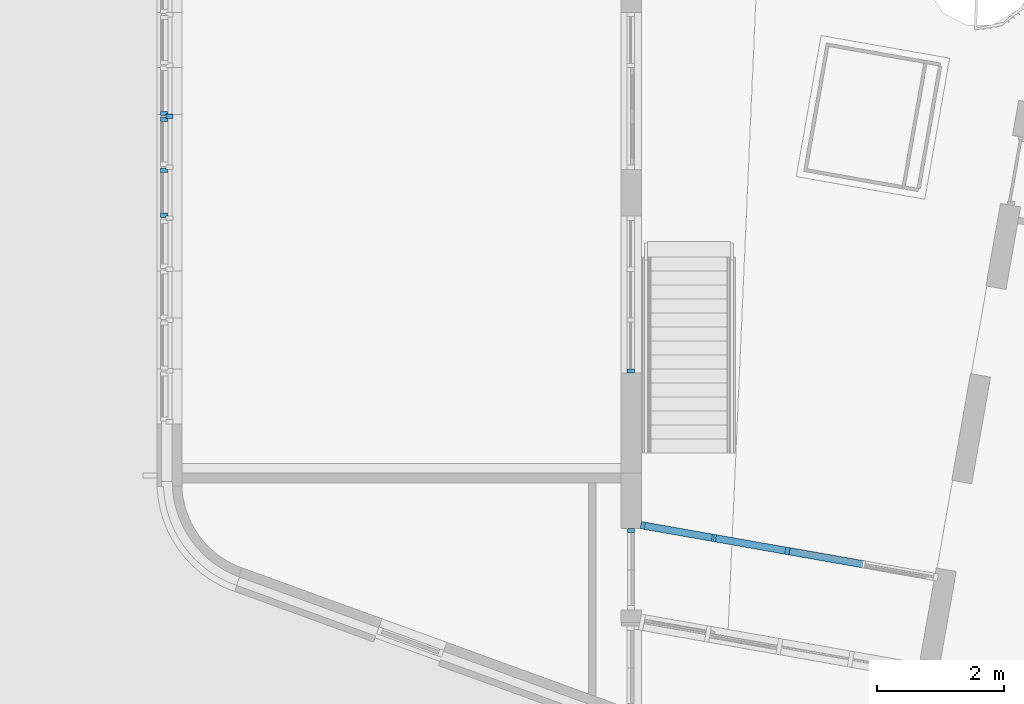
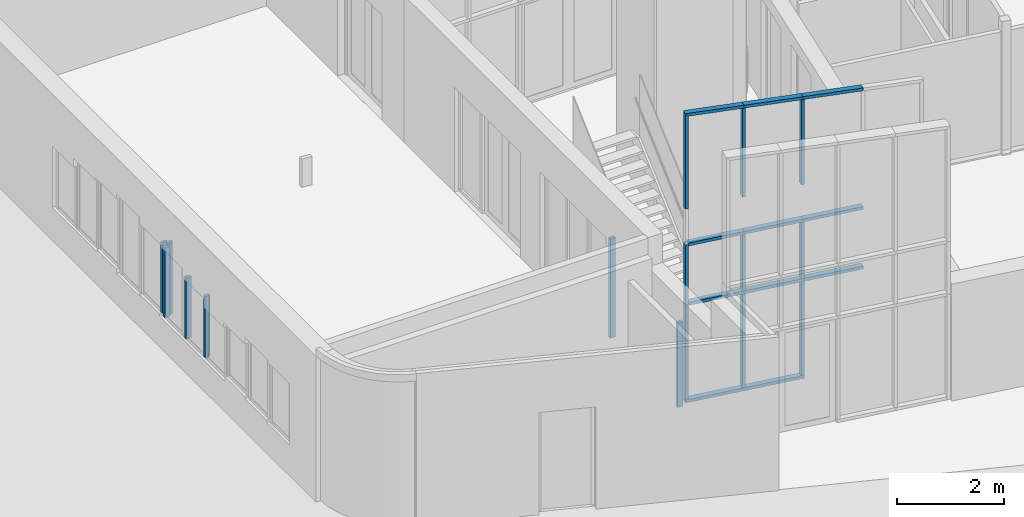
# One storey, part 3 of 21: 28 members, 8 elements without a shape of their own.
"""IFC2X3 building model written with IfcOpenShell, lengths in millimetres."""

from ifc_helpers import new_model, entity, si_unit, converted_unit, derived_unit, direction, frame, frame_2d, origin, origin_2d_with_axis, place, context, subcontext, project, spatial, polyline, rectangle, outline, extrude, clip, halfspace, bounded_halfspace, source, transform, mapped, material, type_object, type_shapes, element, aggregate, save


model = new_model("IFC2X3")

# Units and contexts
model_context = context("Model", 3, precision=0.01, world=origin(), true_north=direction((6.12303176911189e-17, 1.0)))
body_context = subcontext(model_context, "Body", "Model", "MODEL_VIEW")
ifc_project = project(units=[si_unit("LENGTHUNIT", "METRE", prefix="MILLI"), si_unit("AREAUNIT", "SQUARE_METRE"), si_unit("VOLUMEUNIT", "CUBIC_METRE"), converted_unit("PLANEANGLEUNIT", "DEGREE", entity("IfcRatioMeasure", 0.0174532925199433), si_unit("PLANEANGLEUNIT", "RADIAN"), dimensions=[0, 0, 0, 0, 0, 0, 0]), si_unit("MASSUNIT", "GRAM", prefix="KILO"), derived_unit("MASSDENSITYUNIT", [(si_unit("MASSUNIT", "GRAM", prefix="KILO"), 1), (si_unit("LENGTHUNIT", "METRE"), -3)]), derived_unit("MOMENTOFINERTIAUNIT", [(si_unit("LENGTHUNIT", "METRE"), 4)]), si_unit("TIMEUNIT", "SECOND"), si_unit("FREQUENCYUNIT", "HERTZ"), si_unit("THERMODYNAMICTEMPERATUREUNIT", "DEGREE_CELSIUS"), derived_unit("THERMALTRANSMITTANCEUNIT", [(si_unit("MASSUNIT", "GRAM", prefix="KILO"), 1), (si_unit("THERMODYNAMICTEMPERATUREUNIT", "KELVIN"), -1), (si_unit("TIMEUNIT", "SECOND"), -3)]), derived_unit("VOLUMETRICFLOWRATEUNIT", [(si_unit("LENGTHUNIT", "METRE"), 3), (si_unit("TIMEUNIT", "SECOND"), -1)]), si_unit("ELECTRICCURRENTUNIT", "AMPERE"), si_unit("ELECTRICVOLTAGEUNIT", "VOLT"), si_unit("POWERUNIT", "WATT"), si_unit("FORCEUNIT", "NEWTON", prefix="KILO"), si_unit("ILLUMINANCEUNIT", "LUX"), si_unit("LUMINOUSFLUXUNIT", "LUMEN"), si_unit("LUMINOUSINTENSITYUNIT", "CANDELA"), derived_unit("USERDEFINED", [(si_unit("MASSUNIT", "GRAM", prefix="KILO"), -1), (si_unit("LENGTHUNIT", "METRE"), -2), (si_unit("TIMEUNIT", "SECOND"), 3), (si_unit("LUMINOUSFLUXUNIT", "LUMEN"), 1)]), derived_unit("LINEARVELOCITYUNIT", [(si_unit("LENGTHUNIT", "METRE"), 1), (si_unit("TIMEUNIT", "SECOND"), -1)]), si_unit("PRESSUREUNIT", "PASCAL"), derived_unit("USERDEFINED", [(si_unit("LENGTHUNIT", "METRE"), -2), (si_unit("MASSUNIT", "GRAM", prefix="KILO"), 1), (si_unit("TIMEUNIT", "SECOND"), -2)]), derived_unit("LINEARFORCEUNIT", [(si_unit("MASSUNIT", "GRAM", prefix="KILO"), 1), (si_unit("LENGTHUNIT", "METRE"), 1), (si_unit("TIMEUNIT", "SECOND"), -2), (si_unit("LENGTHUNIT", "METRE"), -1)]), derived_unit("PLANARFORCEUNIT", [(si_unit("MASSUNIT", "GRAM", prefix="KILO"), 1), (si_unit("LENGTHUNIT", "METRE"), 1), (si_unit("TIMEUNIT", "SECOND"), -2), (si_unit("LENGTHUNIT", "METRE"), -2)])], contexts=[model_context])

# Site, building, storey
site_placement = place(None, origin())
site = spatial("IfcSite", under=ifc_project, at=site_placement, Name="<Kadaster Gemeente>;<Kadaster nummer>;<Kadaster sectie>", CompositionType="ELEMENT")
building_placement = place(site_placement, origin())
building = spatial("IfcBuilding", under=site, at=building_placement, Name="JRCZ Middelburg", CompositionType="ELEMENT")
storey_placement = place(building_placement, origin())
storey = spatial("IfcBuildingStorey", under=building, at=storey_placement, Name="00 begane grond", CompositionType="ELEMENT", Elevation=0.0)

# Curtain wall, members
curtain_wall_type_1 = type_object("IfcCurtainWallType", Name="Curtain Wall:vliesgevel B", PredefinedType="NOTDEFINED")
curtain_wall_1_placement = place(storey_placement, origin())
curtain_wall_1 = element("IfcCurtainWall", 1, at=curtain_wall_1_placement, inside=storey, type_object=curtain_wall_type_1, Name="Curtain Wall:vliesgevel B", ObjectType="Curtain Wall:vliesgevel B")
ifc_material_1 = material(Name="RBM_i2_binnenkozijn")
member_type_1 = type_object("IfcMemberType", Name="Rectangular Mullion:32_CWM_067x114", PredefinedType="MULLION", material=ifc_material_1)
shared_shape_1 = source(origin(), body_context, "Body", "Clipping", [
    clip(extrude(rectangle(XDim=113.999999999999, YDim=67.0, at=origin_2d_with_axis()), frame((-33.5, 0.0, -2177.66666666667), z_axis=(0.0, 0.0, 1.0), x_axis=(0.0, -1.0, 0.0)), (0.0, 0.0, 1.0), 2177.66666666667), halfspace(frame((0.0, -304.799999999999, 0.0), z_axis=(-0.73233970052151, 0.0, 0.680939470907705), x_axis=(-0.680939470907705, 0.0, -0.73233970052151)), False)),
])
type_shapes(member_type_1, [shared_shape_1])
member_1_placement = place(storey_placement, frame((17362.2500000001, 9178.37735087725, 6600.0), z_axis=(0.0, 0.0, 1.0), x_axis=(-0.984807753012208, 0.173648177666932, 0.0)))
member_1 = element("IfcMember", 2, at=member_1_placement, type_object=member_type_1, material=ifc_material_1, Name="Rectangular Mullion:32_CWM_067x114", ObjectType="Rectangular Mullion:32_CWM_067x114", context=body_context, shape_type="MappedRepresentation", body=[
    mapped(shared_shape_1, transform((0.0, 0.0, 0.0), scale=1.0)),
])
member_type_2 = type_object("IfcMemberType", Name="Rectangular Mullion:32_CWM_067x114", PredefinedType="MULLION", material=ifc_material_1)
shared_shape_2 = source(origin(), body_context, "Body", "SweptSolid", [
    extrude(rectangle(XDim=113.999999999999, YDim=67.0, at=origin_2d_with_axis()), frame((0.0, 0.0, -2144.16666666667), z_axis=(0.0, 0.0, 1.0), x_axis=(0.0, -1.0, 0.0)), (0.0, 0.0, 1.0), 2144.16666666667),
])
type_shapes(member_type_2, [shared_shape_2])
member_2_placement = place(storey_placement, frame((19664.9206469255, 8772.35438813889, 67.0), z_axis=(0.0, 0.0, -1.0), x_axis=(0.984807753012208, -0.173648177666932, 0.0)))
member_2 = element("IfcMember", 3, at=member_2_placement, type_object=member_type_2, material=ifc_material_1, Name="Rectangular Mullion:32_CWM_067x114", ObjectType="Rectangular Mullion:32_CWM_067x114", context=body_context, shape_type="MappedRepresentation", body=[
    mapped(shared_shape_2, transform((0.0, 0.0, 0.0), scale=1.0)),
])
member_3_placement = place(storey_placement, frame((18510.4603234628, 8975.91689132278, 67.0), z_axis=(0.0, 0.0, -1.0), x_axis=(0.984807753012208, -0.173648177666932, 0.0)))
member_3 = element("IfcMember", 4, at=member_3_placement, type_object=member_type_2, material=ifc_material_1, Name="Rectangular Mullion:32_CWM_067x114", ObjectType="Rectangular Mullion:32_CWM_067x114", context=body_context, shape_type="MappedRepresentation", body=[
    mapped(shared_shape_2, transform((0.0, 0.0, 0.0), scale=1.0)),
])
member_type_3 = type_object("IfcMemberType", Name="Rectangular Mullion:32_CWM_067x114", PredefinedType="MULLION", material=ifc_material_1)
shared_shape_3 = source(origin(), body_context, "Body", "SweptSolid", [
    extrude(rectangle(XDim=113.999999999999, YDim=67.0, at=origin_2d_with_axis()), frame((-33.5, 0.0, -1165.92331848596), z_axis=(0.0, 0.0, 1.0), x_axis=(0.0, -1.0, 0.0)), (0.0, 0.0, 1.0), 1165.92331848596),
])
type_shapes(member_type_3, [shared_shape_3])
member_4_placement = place(storey_placement, frame((17362.2500000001, 9178.37735087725, 0.0), z_axis=(-0.984807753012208, 0.173648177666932, 0.0), x_axis=(0.0, 0.0, -1.0)))
member_4 = element("IfcMember", 5, at=member_4_placement, type_object=member_type_3, material=ifc_material_1, Name="Rectangular Mullion:32_CWM_067x114", ObjectType="Rectangular Mullion:32_CWM_067x114", context=body_context, shape_type="MappedRepresentation", body=[
    mapped(shared_shape_3, transform((0.0, 0.0, 0.0), scale=1.0)),
])
member_type_4 = type_object("IfcMemberType", Name="Rectangular Mullion:32_CWM_067x114", PredefinedType="MULLION", material=ifc_material_1)
shared_shape_4 = source(origin(), body_context, "Body", "SweptSolid", [
    extrude(rectangle(XDim=113.999999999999, YDim=67.0, at=origin_2d_with_axis()), frame((-33.5, 0.0, -2177.66666666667), z_axis=(0.0, 0.0, 1.0), x_axis=(0.0, -1.0, 0.0)), (0.0, 0.0, 1.0), 2177.66666666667),
])
type_shapes(member_type_4, [shared_shape_4])
member_5_placement = place(storey_placement, frame((17362.2500000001, 9178.37735087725, 2244.66666666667), z_axis=(0.0, 0.0, 1.0), x_axis=(-0.984807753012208, 0.173648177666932, 0.0)))
member_5 = element("IfcMember", 6, at=member_5_placement, type_object=member_type_4, material=ifc_material_1, Name="Rectangular Mullion:32_CWM_067x114", ObjectType="Rectangular Mullion:32_CWM_067x114", context=body_context, shape_type="MappedRepresentation", body=[
    mapped(shared_shape_4, transform((0.0, 0.0, 0.0), scale=1.0)),
])
member_type_5 = type_object("IfcMemberType", Name="Rectangular Mullion:32_CWM_067x114", PredefinedType="MULLION", material=ifc_material_1)
shared_shape_5 = source(origin(), body_context, "Body", "SweptSolid", [
    extrude(rectangle(XDim=113.999999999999, YDim=67.0, at=origin_2d_with_axis()), frame((0.0, 0.0, -1290.66666666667), z_axis=(0.0, 0.0, 1.0), x_axis=(0.0, -1.0, 0.0)), (0.0, 0.0, 1.0), 1290.66666666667),
])
type_shapes(member_type_5, [shared_shape_5])
member_6_placement = place(storey_placement, frame((19664.9206469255, 8772.35438813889, 2278.16666666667), z_axis=(0.0, 0.0, -1.0), x_axis=(0.984807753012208, -0.173648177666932, 0.0)))
member_6 = element("IfcMember", 7, at=member_6_placement, type_object=member_type_5, material=ifc_material_1, Name="Rectangular Mullion:32_CWM_067x114", ObjectType="Rectangular Mullion:32_CWM_067x114", context=body_context, shape_type="MappedRepresentation", body=[
    mapped(shared_shape_5, transform((0.0, 0.0, 0.0), scale=1.0)),
])
member_7_placement = place(storey_placement, frame((18510.4603234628, 8975.91689132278, 2278.16666666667), z_axis=(0.0, 0.0, -1.0), x_axis=(0.984807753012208, -0.173648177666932, 0.0)))
member_7 = element("IfcMember", 8, at=member_7_placement, type_object=member_type_5, material=ifc_material_1, Name="Rectangular Mullion:32_CWM_067x114", ObjectType="Rectangular Mullion:32_CWM_067x114", context=body_context, shape_type="MappedRepresentation", body=[
    mapped(shared_shape_5, transform((0.0, 0.0, 0.0), scale=1.0)),
])
member_type_6 = type_object("IfcMemberType", Name="Rectangular Mullion:32_CWM_067x114", PredefinedType="MULLION", material=ifc_material_1)
shared_shape_6 = source(origin(), body_context, "Body", "Clipping", [
    clip(clip(extrude(rectangle(XDim=113.999999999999, YDim=67.0, at=origin_2d_with_axis()), frame((0.0, 0.0, -1942.6261666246), z_axis=(0.0, 0.0, 1.0), x_axis=(0.0, -1.0, 0.0)), (0.0, 0.0, 1.0), 1942.6261666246), bounded_halfspace(frame((-4.86707255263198, 57.0, -1940.54067866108), z_axis=(0.0726428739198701, 0.0, -0.997358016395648), x_axis=(-0.997358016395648, 0.0, -0.0726428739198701)), False, frame((0.0, 0.0, -1942.6261666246), z_axis=(0.0, 0.0, 1.0), x_axis=(0.0, -1.0, 0.0)), polyline([(57.0, -4.867072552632), (57.0, -33.5), (-57.0, -33.5), (-57.0, -4.86707255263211), (57.0, -4.867072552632)]))), bounded_halfspace(frame((1197.51838538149, 57.0, -1852.96456879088), z_axis=(0.0726428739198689, 0.0, -0.997358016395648), x_axis=(-0.997358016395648, 0.0, -0.0726428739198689)), False, frame((0.0, 0.0, -1942.6261666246), z_axis=(0.0, 0.0, 1.0), x_axis=(0.0, -1.0, 0.0)), polyline([(-57.0, 33.5), (57.0, 33.5), (57.0, -4.86707255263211), (-57.0, -4.86707255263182), (-57.0, 33.5)]))),
])
type_shapes(member_type_6, [shared_shape_6])
member_8_placement = place(storey_placement, frame((19664.9206469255, 8772.35438813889, 4422.33333333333), z_axis=(0.0, 0.0, -1.0), x_axis=(0.984807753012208, -0.173648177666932, 0.0)))
member_8 = element("IfcMember", 9, at=member_8_placement, type_object=member_type_6, material=ifc_material_1, Name="Rectangular Mullion:32_CWM_067x114", ObjectType="Rectangular Mullion:32_CWM_067x114", context=body_context, shape_type="MappedRepresentation", body=[
    mapped(shared_shape_6, transform((0.0, 0.0, 0.0), scale=1.0)),
])
member_type_7 = type_object("IfcMemberType", Name="Rectangular Mullion:32_CWM_067x114", PredefinedType="MULLION", material=ifc_material_1)
shared_shape_7 = source(origin(), body_context, "Body", "SweptSolid", [
    extrude(rectangle(XDim=113.999999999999, YDim=67.0, at=origin_2d_with_axis()), frame((0.0, 0.0, -1098.92331848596), z_axis=(0.0, 0.0, 1.0), x_axis=(0.0, -1.0, 0.0)), (0.0, 0.0, 1.0), 1098.92331848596),
])
type_shapes(member_type_7, [shared_shape_7])
member_9_placement = place(storey_placement, frame((18510.4603234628, 8975.91689132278, 2244.66666666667), z_axis=(0.984807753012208, -0.173648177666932, 0.0), x_axis=(0.0, 0.0, 1.0)))
member_9 = element("IfcMember", 10, at=member_9_placement, type_object=member_type_7, material=ifc_material_1, Name="Rectangular Mullion:32_CWM_067x114", ObjectType="Rectangular Mullion:32_CWM_067x114", context=body_context, shape_type="MappedRepresentation", body=[
    mapped(shared_shape_7, transform((0.0, 0.0, 0.0), scale=1.0)),
])
member_10_placement = place(storey_placement, frame((18510.4603234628, 8975.91689132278, 3602.33333333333), z_axis=(0.984807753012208, -0.173648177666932, 0.0), x_axis=(0.0, 0.0, 1.0)))
member_10 = element("IfcMember", 11, at=member_10_placement, type_object=member_type_7, material=ifc_material_1, Name="Rectangular Mullion:32_CWM_067x114", ObjectType="Rectangular Mullion:32_CWM_067x114", context=body_context, shape_type="MappedRepresentation", body=[
    mapped(shared_shape_7, transform((0.0, 0.0, 0.0), scale=1.0)),
])
member_type_8 = type_object("IfcMemberType", Name="Rectangular Mullion:32_CWM_067x114", PredefinedType="MULLION", material=ifc_material_1)
shared_shape_8 = source(origin(), body_context, "Body", "SweptSolid", [
    extrude(rectangle(XDim=113.999999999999, YDim=67.0, at=origin_2d_with_axis()), frame((0.0, 0.0, -1202.38545793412), z_axis=(0.0, 0.0, 1.0), x_axis=(0.0, -1.0, 0.0)), (0.0, 0.0, 1.0), 1202.38545793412),
])
type_shapes(member_type_8, [shared_shape_8])
member_11_placement = place(storey_placement, frame((20849.0391680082, 8563.56234451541, 2244.66666666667), z_axis=(0.984807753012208, -0.173648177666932, 0.0), x_axis=(0.0, 0.0, 1.0)))
member_11 = element("IfcMember", 12, at=member_11_placement, type_object=member_type_8, material=ifc_material_1, Name="Rectangular Mullion:32_CWM_067x114", ObjectType="Rectangular Mullion:32_CWM_067x114", context=body_context, shape_type="MappedRepresentation", body=[
    mapped(shared_shape_8, transform((0.0, 0.0, 0.0), scale=1.0)),
])
member_12_placement = place(storey_placement, frame((20849.0391680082, 8563.56234451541, 3602.33333333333), z_axis=(0.984807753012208, -0.173648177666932, 0.0), x_axis=(0.0, 0.0, 1.0)))
member_12 = element("IfcMember", 13, at=member_12_placement, type_object=member_type_8, material=ifc_material_1, Name="Rectangular Mullion:32_CWM_067x114", ObjectType="Rectangular Mullion:32_CWM_067x114", context=body_context, shape_type="MappedRepresentation", body=[
    mapped(shared_shape_8, transform((0.0, 0.0, 0.0), scale=1.0)),
])
member_type_9 = type_object("IfcMemberType", Name="Rectangular Mullion:32_CWM_067x114", PredefinedType="MULLION", material=ifc_material_1)
shared_shape_9 = source(origin(), body_context, "Body", "SweptSolid", [
    extrude(rectangle(XDim=113.999999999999, YDim=67.0, at=origin_2d_with_axis()), frame((-33.5, 0.0, -1175.37505643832), z_axis=(0.0, 0.0, 1.0), x_axis=(0.0, -1.0, 0.0)), (0.0, 0.0, 1.0), 1175.37505643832),
])
type_shapes(member_type_9, [shared_shape_9])
member_13_placement = place(storey_placement, frame((19664.9206469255, 8772.35438813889, 6429.69699909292), z_axis=(0.982205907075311, -0.173189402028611, -0.0726428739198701), x_axis=(0.0715392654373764, -0.0126143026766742, 0.997358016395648)))
member_13 = element("IfcMember", 14, at=member_13_placement, type_object=member_type_9, material=ifc_material_1, Name="Rectangular Mullion:32_CWM_067x114", ObjectType="Rectangular Mullion:32_CWM_067x114", context=body_context, shape_type="MappedRepresentation", body=[
    mapped(shared_shape_9, transform((0.0, 0.0, 0.0), scale=1.0)),
])
member_type_10 = type_object("IfcMemberType", Name="Rectangular Mullion:32_CWM_067x114", PredefinedType="MULLION", material=ifc_material_1)
shared_shape_10 = source(origin(), body_context, "Body", "SweptSolid", [
    extrude(rectangle(XDim=113.999999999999, YDim=67.0, at=origin_2d_with_axis()), frame((-33.5, 0.0, -1357.66666666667), z_axis=(0.0, 0.0, 1.0), x_axis=(0.0, -1.0, 0.0)), (0.0, 0.0, 1.0), 1357.66666666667),
])
type_shapes(member_type_10, [shared_shape_10])
member_14_placement = place(storey_placement, frame((17362.2500000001, 9178.37735087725, 3602.33333333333), z_axis=(0.0, 0.0, 1.0), x_axis=(-0.984807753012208, 0.173648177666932, 0.0)))
member_14 = element("IfcMember", 15, at=member_14_placement, type_object=member_type_10, material=ifc_material_1, Name="Rectangular Mullion:32_CWM_067x114", ObjectType="Rectangular Mullion:32_CWM_067x114", context=body_context, shape_type="MappedRepresentation", body=[
    mapped(shared_shape_10, transform((0.0, 0.0, 0.0), scale=1.0)),
])
member_type_11 = type_object("IfcMemberType", Name="Rectangular Mullion:32_CWM_067x114", PredefinedType="MULLION", material=ifc_material_1)
shared_shape_11 = source(origin(), body_context, "Body", "Clipping", [
    clip(extrude(rectangle(XDim=113.999999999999, YDim=67.0, at=origin_2d_with_axis()), frame((-33.5, 0.0, -1169.01182857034), z_axis=(0.0, 0.0, 1.0), x_axis=(0.0, -1.0, 0.0)), (0.0, 0.0, 1.0), 1169.01182857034), halfspace(frame((0.0, -304.799999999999, -1169.01182857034), z_axis=(-0.73233970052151, 0.0, -0.680939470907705), x_axis=(-0.680939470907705, 0.0, 0.73233970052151)), False)),
])
type_shapes(member_type_11, [shared_shape_11])
member_15_placement = place(storey_placement, frame((18510.4603234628, 8975.91689132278, 6515.07962112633), z_axis=(0.982205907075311, -0.173189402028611, -0.0726428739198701), x_axis=(0.0715392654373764, -0.0126143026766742, 0.997358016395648)))
member_15 = element("IfcMember", 16, at=member_15_placement, type_object=member_type_11, material=ifc_material_1, Name="Rectangular Mullion:32_CWM_067x114", ObjectType="Rectangular Mullion:32_CWM_067x114", context=body_context, shape_type="MappedRepresentation", body=[
    mapped(shared_shape_11, transform((0.0, 0.0, 0.0), scale=1.0)),
])
member_type_12 = type_object("IfcMemberType", Name="Rectangular Mullion:32_CWM_067x114", PredefinedType="MULLION", material=ifc_material_1)
shared_shape_12 = source(origin(), body_context, "Body", "SweptSolid", [
    extrude(rectangle(XDim=113.999999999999, YDim=67.0, at=origin_2d_with_axis()), frame((-33.5, 0.0, -1205.76973481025), z_axis=(0.0, 0.0, 1.0), x_axis=(0.0, -1.0, 0.0)), (0.0, 0.0, 1.0), 1205.76973481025),
])
type_shapes(member_type_12, [shared_shape_12])
member_16_placement = place(storey_placement, frame((18510.4603234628, 8975.91689132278, 0.0), z_axis=(-0.984807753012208, 0.173648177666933, 0.0), x_axis=(0.0, 0.0, -1.0)))
member_16 = element("IfcMember", 17, at=member_16_placement, type_object=member_type_12, material=ifc_material_1, Name="Rectangular Mullion:32_CWM_067x114", ObjectType="Rectangular Mullion:32_CWM_067x114", context=body_context, shape_type="MappedRepresentation", body=[
    mapped(shared_shape_12, transform((0.0, 0.0, 0.0), scale=1.0)),
])
member_type_13 = type_object("IfcMemberType", Name="Rectangular Mullion:32_CWM_067x114", PredefinedType="MULLION", material=ifc_material_1)
shared_shape_13 = source(origin(), body_context, "Body", "SweptSolid", [
    extrude(rectangle(XDim=113.999999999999, YDim=67.0, at=origin_2d_with_axis()), frame((0.0, 0.0, -1172.26973481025), z_axis=(0.0, 0.0, 1.0), x_axis=(0.0, -1.0, 0.0)), (0.0, 0.0, 1.0), 1172.26973481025),
])
type_shapes(member_type_13, [shared_shape_13])
member_17_placement = place(storey_placement, frame((19664.9206469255, 8772.35438813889, 2244.66666666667), z_axis=(0.984807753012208, -0.173648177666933, 0.0), x_axis=(0.0, 0.0, 1.0)))
member_17 = element("IfcMember", 18, at=member_17_placement, type_object=member_type_13, material=ifc_material_1, Name="Rectangular Mullion:32_CWM_067x114", ObjectType="Rectangular Mullion:32_CWM_067x114", context=body_context, shape_type="MappedRepresentation", body=[
    mapped(shared_shape_13, transform((0.0, 0.0, 0.0), scale=1.0)),
])
member_18_placement = place(storey_placement, frame((19664.9206469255, 8772.35438813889, 3602.33333333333), z_axis=(0.984807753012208, -0.173648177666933, 0.0), x_axis=(0.0, 0.0, 1.0)))
member_18 = element("IfcMember", 19, at=member_18_placement, type_object=member_type_13, material=ifc_material_1, Name="Rectangular Mullion:32_CWM_067x114", ObjectType="Rectangular Mullion:32_CWM_067x114", context=body_context, shape_type="MappedRepresentation", body=[
    mapped(shared_shape_13, transform((0.0, 0.0, 0.0), scale=1.0)),
])
member_type_14 = type_object("IfcMemberType", Name="Rectangular Mullion:32_CWM_067x114", PredefinedType="MULLION", material=ifc_material_1)
shared_shape_14 = source(origin(), body_context, "Body", "Clipping", [
    clip(clip(extrude(rectangle(XDim=113.999999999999, YDim=67.0, at=origin_2d_with_axis()), frame((0.0, 0.0, -2028.00878865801), z_axis=(0.0, 0.0, 1.0), x_axis=(0.0, -1.0, 0.0)), (0.0, 0.0, 1.0), 2028.00878865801), bounded_halfspace(frame((-4.86707255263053, 57.0, -2025.92330069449), z_axis=(0.0726428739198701, 0.0, -0.997358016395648), x_axis=(-0.997358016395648, 0.0, -0.0726428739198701)), False, frame((0.0, 0.0, -2028.00878865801), z_axis=(0.0, 0.0, 1.0), x_axis=(0.0, -1.0, 0.0)), polyline([(57.0, -4.86707255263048), (57.0, -33.5), (-57.0, -33.5), (-57.0, -4.86707255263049), (57.0, -4.86707255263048)]))), bounded_halfspace(frame((1167.40266225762, 57.0, -1940.54067866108), z_axis=(0.0726428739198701, 0.0, -0.997358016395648), x_axis=(-0.997358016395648, 0.0, -0.0726428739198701)), False, frame((0.0, 0.0, -2028.00878865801), z_axis=(0.0, 0.0, 1.0), x_axis=(0.0, -1.0, 0.0)), polyline([(-57.0, 33.5), (57.0, 33.5), (57.0, -4.86707255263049), (-57.0, -4.86707255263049), (-57.0, 33.5)]))),
])
type_shapes(member_type_14, [shared_shape_14])
member_19_placement = place(storey_placement, frame((18510.4603234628, 8975.91689132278, 4422.33333333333), z_axis=(0.0, 0.0, -1.0), x_axis=(0.984807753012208, -0.173648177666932, 0.0)))
member_19 = element("IfcMember", 20, at=member_19_placement, type_object=member_type_14, material=ifc_material_1, Name="Rectangular Mullion:32_CWM_067x114", ObjectType="Rectangular Mullion:32_CWM_067x114", context=body_context, shape_type="MappedRepresentation", body=[
    mapped(shared_shape_14, transform((0.0, 0.0, 0.0), scale=1.0)),
])
member_type_15 = type_object("IfcMemberType", Name="Rectangular Mullion:32_CWM_067x114", PredefinedType="MULLION", material=ifc_material_1)
shared_shape_15 = source(origin(), body_context, "Body", "SweptSolid", [
    extrude(rectangle(XDim=113.999999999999, YDim=67.0, at=origin_2d_with_axis()), frame((-33.5, 0.0, -1205.5620489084), z_axis=(0.0, 0.0, 1.0), x_axis=(0.0, -1.0, 0.0)), (0.0, 0.0, 1.0), 1205.5620489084),
])
type_shapes(member_type_15, [shared_shape_15])
member_20_placement = place(storey_placement, frame((20849.0391680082, 8563.56234451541, 6342.12088922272), z_axis=(0.982205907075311, -0.17318940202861, -0.0726428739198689), x_axis=(0.0715392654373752, -0.012614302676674, 0.997358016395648)))
member_20 = element("IfcMember", 21, at=member_20_placement, type_object=member_type_15, material=ifc_material_1, Name="Rectangular Mullion:32_CWM_067x114", ObjectType="Rectangular Mullion:32_CWM_067x114", context=body_context, shape_type="MappedRepresentation", body=[
    mapped(shared_shape_15, transform((0.0, 0.0, 0.0), scale=1.0)),
])
aggregate(curtain_wall_1, [member_1, member_2, member_4, member_5, member_6, member_8, member_9, member_11, member_13, member_14, member_10, member_12, member_15, member_16, member_17, member_18, member_3, member_7, member_19, member_20])

# Curtain wall, member
curtain_wall_type_2 = type_object("IfcCurtainWallType", Name="Curtain Wall:NLRS_32_CW_067x114", PredefinedType="NOTDEFINED")
curtain_wall_2_placement = place(storey_placement, origin())
curtain_wall_2 = element("IfcCurtainWall", 22, at=curtain_wall_2_placement, inside=storey, type_object=curtain_wall_type_2, Name="Curtain Wall:NLRS_32_CW_067x114", ObjectType="Curtain Wall:NLRS_32_CW_067x114")
member_type_16 = type_object("IfcMemberType", Name="Rectangular Mullion:32_CWM_067x114", PredefinedType="MULLION", material=ifc_material_1)
shared_shape_16 = source(origin(), body_context, "Body", "SweptSolid", [
    extrude(rectangle(XDim=113.999999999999, YDim=67.0, at=origin_2d_with_axis()), frame((-33.5, 0.0, -2266.0), z_axis=(0.0, 0.0, 1.0), x_axis=(0.0, -1.0, 0.0)), (0.0, 0.0, 1.0), 2266.0),
])
type_shapes(member_type_16, [shared_shape_16])
member_21_placement = place(storey_placement, frame((17203.0, 11566.4999996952, 2333.0), z_axis=(0.0, 0.0, 1.0), x_axis=(0.0, -1.0, 0.0)))
member_21 = element("IfcMember", 23, at=member_21_placement, type_object=member_type_16, material=ifc_material_1, Name="Rectangular Mullion:32_CWM_067x114", ObjectType="Rectangular Mullion:32_CWM_067x114", context=body_context, shape_type="MappedRepresentation", body=[
    mapped(shared_shape_16, transform((0.0, 0.0, 0.0), scale=1.0)),
])
aggregate(curtain_wall_2, [member_21])

curtain_wall_3_placement = place(storey_placement, origin())
curtain_wall_3 = element("IfcCurtainWall", 24, at=curtain_wall_3_placement, inside=storey, type_object=curtain_wall_type_2, Name="Curtain Wall:NLRS_32_CW_067x114", ObjectType="Curtain Wall:NLRS_32_CW_067x114")
member_type_17 = type_object("IfcMemberType", Name="Rectangular Mullion:32_CWM_067x114", PredefinedType="MULLION", material=ifc_material_1)
shared_shape_17 = source(origin(), body_context, "Body", "SweptSolid", [
    extrude(rectangle(XDim=113.999999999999, YDim=67.0, at=origin_2d_with_axis()), frame((-33.5, 0.0, -1933.0), z_axis=(0.0, 0.0, 1.0), x_axis=(0.0, -1.0, 0.0)), (0.0, 0.0, 1.0), 1933.0),
])
type_shapes(member_type_17, [shared_shape_17])
member_22_placement = place(storey_placement, frame((17209.2500000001, 9128.74078602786, 0.0), z_axis=(0.0, 0.0, -1.0), x_axis=(0.0, 1.0, 0.0)))
member_22 = element("IfcMember", 25, at=member_22_placement, type_object=member_type_17, material=ifc_material_1, Name="Rectangular Mullion:32_CWM_067x114", ObjectType="Rectangular Mullion:32_CWM_067x114", context=body_context, shape_type="MappedRepresentation", body=[
    mapped(shared_shape_17, transform((0.0, 0.0, 0.0), scale=1.0)),
])
aggregate(curtain_wall_3, [member_22])

curtain_wall_type_3 = type_object("IfcCurtainWallType", Name="Curtain Wall:NLRS_31_CW_hsb rek 63x196mm h.o.h. 800mm", PredefinedType="NOTDEFINED")
curtain_wall_4_placement = place(storey_placement, origin())
curtain_wall_4 = element("IfcCurtainWall", 26, at=curtain_wall_4_placement, inside=storey, type_object=curtain_wall_type_3, Name="Curtain Wall:NLRS_31_CW_hsb rek 63x196mm h.o.h. 800mm", ObjectType="Curtain Wall:NLRS_31_CW_hsb rek 63x196mm h.o.h. 800mm")
member_type_18 = type_object("IfcMemberType", Name="Rectangular Mullion:32_CWM_067x114", PredefinedType="MULLION", material=ifc_material_1)
shared_shape_18 = source(origin(), body_context, "Body", "SweptSolid", [
    extrude(rectangle(XDim=66.9999999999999, YDim=114.0, at=frame_2d((1.08002495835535e-12, 0.0), x_axis=(1.0, 0.0))), frame((9956.0, 15598.0, 700.0), z_axis=(0.0, 0.0, 1.0), x_axis=(0.0, -1.0, 0.0)), (0.0, 0.0, 1.0), 1600.0),
])
type_shapes(member_type_18, [shared_shape_18])
member_23_placement = place(storey_placement, origin())
member_23 = element("IfcMember", 27, at=member_23_placement, type_object=member_type_18, material=ifc_material_1, Name="Rectangular Mullion:32_CWM_067x114", ObjectType="Rectangular Mullion:32_CWM_067x114", context=body_context, shape_type="MappedRepresentation", body=[
    mapped(shared_shape_18, transform((0.0, 0.0, 0.0), scale=1.0)),
])
aggregate(curtain_wall_4, [member_23])

curtain_wall_type_4 = type_object("IfcCurtainWallType", Name="Curtain Wall:NLRS_31_CW_Ontwerpkozijn 067x114 2", PredefinedType="NOTDEFINED")
curtain_wall_5_placement = place(storey_placement, origin())
curtain_wall_5 = element("IfcCurtainWall", 28, at=curtain_wall_5_placement, inside=storey, type_object=curtain_wall_type_4, Name="Curtain Wall:NLRS_31_CW_Ontwerpkozijn 067x114 2", ObjectType="Curtain Wall:NLRS_31_CW_Ontwerpkozijn 067x114 2")
ifc_material_2 = material(Name="RBM_a_kozijn")
member_type_19 = type_object("IfcMemberType", Name="Rectangular Mullion:31_CWM_067x114", PredefinedType="MULLION", material=ifc_material_2)
shared_shape_19 = source(origin(), body_context, "Body", "SweptSolid", [
    extrude(outline(polyline([(-30.0, -65.3333333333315), (37.0, -65.3333333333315), (37.0, 48.6666666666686), (-7.0, 48.6666666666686), (-7.0, 16.6666666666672), (-30.0, 16.6666666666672), (-30.0, -65.3333333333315)])), frame((9882.33333333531, 15557.4999999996, 700.0), z_axis=(0.0, 0.0, 1.0), x_axis=(0.0, -1.0, 0.0)), (0.0, 0.0, 1.0), 1600.0),
])
type_shapes(member_type_19, [shared_shape_19])
member_24_placement = place(storey_placement, origin())
member_24 = element("IfcMember", 29, at=member_24_placement, type_object=member_type_19, material=ifc_material_2, Name="Rectangular Mullion:31_CWM_067x114", ObjectType="Rectangular Mullion:31_CWM_067x114", context=body_context, shape_type="MappedRepresentation", body=[
    mapped(shared_shape_19, transform((0.0, 0.0, 0.0), scale=1.0)),
])
aggregate(curtain_wall_5, [member_24])

# Curtain wall, members
curtain_wall_6_placement = place(storey_placement, origin())
curtain_wall_6 = element("IfcCurtainWall", 30, at=curtain_wall_6_placement, inside=storey, type_object=curtain_wall_type_4, Name="Curtain Wall:NLRS_31_CW_Ontwerpkozijn 067x114 2", ObjectType="Curtain Wall:NLRS_31_CW_Ontwerpkozijn 067x114 2")
member_type_20 = type_object("IfcMemberType", Name="Rectangular Mullion:31_CWM_067x114", PredefinedType="MULLION", material=ifc_material_2)
shared_shape_20 = source(origin(), body_context, "Body", "SweptSolid", [
    extrude(outline(polyline([(-37.0, -65.3333333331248), (30.0, -65.3333333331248), (30.0, 16.6666666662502), (7.0, 16.6666666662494), (7.0, 48.6666666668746), (-37.0, 48.6666666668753), (-37.0, -65.3333333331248)])), frame((9882.33333333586, 14042.4999999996, 700.0), z_axis=(0.0, 0.0, 1.0), x_axis=(0.0, -1.0, 0.0)), (0.0, 0.0, 1.0), 1400.0),
])
type_shapes(member_type_20, [shared_shape_20])
member_25_placement = place(storey_placement, origin())
member_25 = element("IfcMember", 31, at=member_25_placement, type_object=member_type_20, material=ifc_material_2, Name="Rectangular Mullion:31_CWM_067x114", ObjectType="Rectangular Mullion:31_CWM_067x114", context=body_context, shape_type="MappedRepresentation", body=[
    mapped(shared_shape_20, transform((0.0, 0.0, 0.0), scale=1.0)),
])
member_type_21 = type_object("IfcMemberType", Name="Rectangular Mullion:31_CWM_067x114", PredefinedType="MULLION", material=ifc_material_2)
shared_shape_21 = source(origin(), body_context, "Body", "SweptSolid", [
    extrude(outline(polyline([(-30.0, -65.3333333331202), (37.0, -65.3333333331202), (37.0, 48.6666666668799), (-7.0, 48.6666666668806), (-7.0, 16.6666666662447), (-30.0, 16.6666666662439), (-30.0, -65.3333333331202)])), frame((9882.33333333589, 14757.4999999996, 700.0), z_axis=(0.0, 0.0, 1.0), x_axis=(0.0, -1.0, 0.0)), (0.0, 0.0, 1.0), 1400.0),
])
type_shapes(member_type_21, [shared_shape_21])
member_26_placement = place(storey_placement, origin())
member_26 = element("IfcMember", 32, at=member_26_placement, type_object=member_type_21, material=ifc_material_2, Name="Rectangular Mullion:31_CWM_067x114", ObjectType="Rectangular Mullion:31_CWM_067x114", context=body_context, shape_type="MappedRepresentation", body=[
    mapped(shared_shape_21, transform((0.0, 0.0, 0.0), scale=1.0)),
])
aggregate(curtain_wall_6, [member_25, member_26])

# Curtain wall, member
curtain_wall_7_placement = place(storey_placement, origin())
curtain_wall_7 = element("IfcCurtainWall", 33, at=curtain_wall_7_placement, inside=storey, type_object=curtain_wall_type_3, Name="Curtain Wall:NLRS_31_CW_hsb rek 63x196mm h.o.h. 800mm", ObjectType="Curtain Wall:NLRS_31_CW_hsb rek 63x196mm h.o.h. 800mm")
member_type_22 = type_object("IfcMemberType", Name="Rectangular Mullion:32_CWM_067x114", PredefinedType="MULLION", material=ifc_material_1)
shared_shape_22 = source(origin(), body_context, "Body", "SweptSolid", [
    extrude(rectangle(XDim=67.0000000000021, YDim=114.0, at=frame_2d((-1.08357767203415e-12, 0.0), x_axis=(1.0, 0.0))), frame((9956.0, 15602.0, 750.0), z_axis=(0.0, 0.0, 1.0), x_axis=(0.0, -1.0, 0.0)), (0.0, 0.0, 1.0), 1600.0),
])
type_shapes(member_type_22, [shared_shape_22])
member_27_placement = place(storey_placement, origin())
member_27 = element("IfcMember", 34, at=member_27_placement, type_object=member_type_22, material=ifc_material_1, Name="Rectangular Mullion:32_CWM_067x114", ObjectType="Rectangular Mullion:32_CWM_067x114", context=body_context, shape_type="MappedRepresentation", body=[
    mapped(shared_shape_22, transform((0.0, 0.0, 0.0), scale=1.0)),
])
aggregate(curtain_wall_7, [member_27])

curtain_wall_8_placement = place(storey_placement, origin())
curtain_wall_8 = element("IfcCurtainWall", 35, at=curtain_wall_8_placement, inside=storey, type_object=curtain_wall_type_4, Name="Curtain Wall:NLRS_31_CW_Ontwerpkozijn 067x114 2", ObjectType="Curtain Wall:NLRS_31_CW_Ontwerpkozijn 067x114 2")
member_type_23 = type_object("IfcMemberType", Name="Rectangular Mullion:31_CWM_067x114", PredefinedType="MULLION", material=ifc_material_2)
shared_shape_23 = source(origin(), body_context, "Body", "SweptSolid", [
    extrude(outline(polyline([(-37.0, -65.333333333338), (30.0, -65.333333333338), (30.0, 16.666666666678), (7.0, 16.666666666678), (7.0, 48.6666666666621), (-37.0, 48.6666666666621), (-37.0, -65.333333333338)])), frame((9882.33333333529, 15642.4999999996, 750.0), z_axis=(0.0, 0.0, 1.0), x_axis=(0.0, -1.0, 0.0)), (0.0, 0.0, 1.0), 1600.0),
])
type_shapes(member_type_23, [shared_shape_23])
member_28_placement = place(storey_placement, origin())
member_28 = element("IfcMember", 36, at=member_28_placement, type_object=member_type_23, material=ifc_material_2, Name="Rectangular Mullion:31_CWM_067x114", ObjectType="Rectangular Mullion:31_CWM_067x114", context=body_context, shape_type="MappedRepresentation", body=[
    mapped(shared_shape_23, transform((0.0, 0.0, 0.0), scale=1.0)),
])
aggregate(curtain_wall_8, [member_28])

save(model, "model.ifc")
